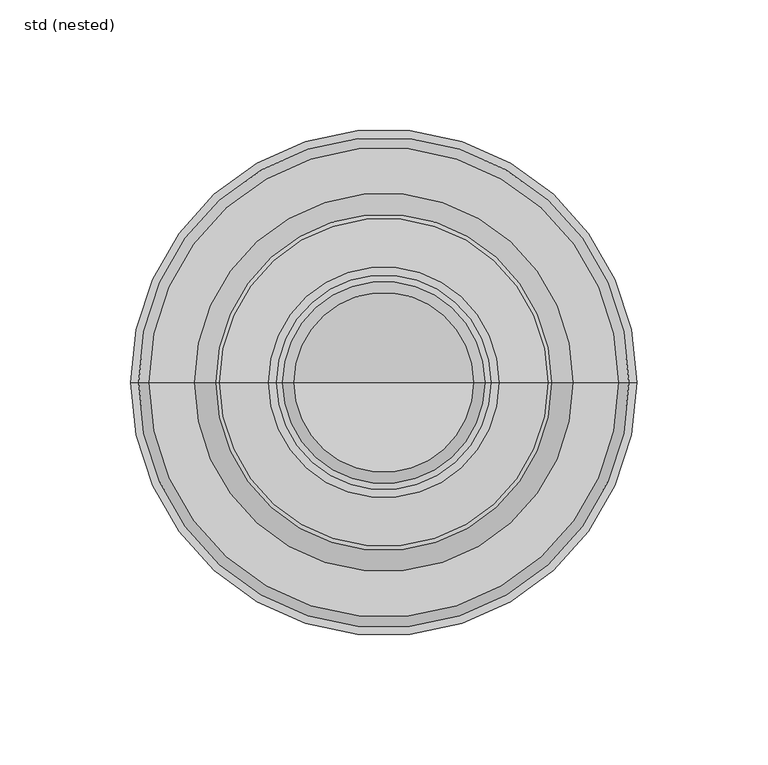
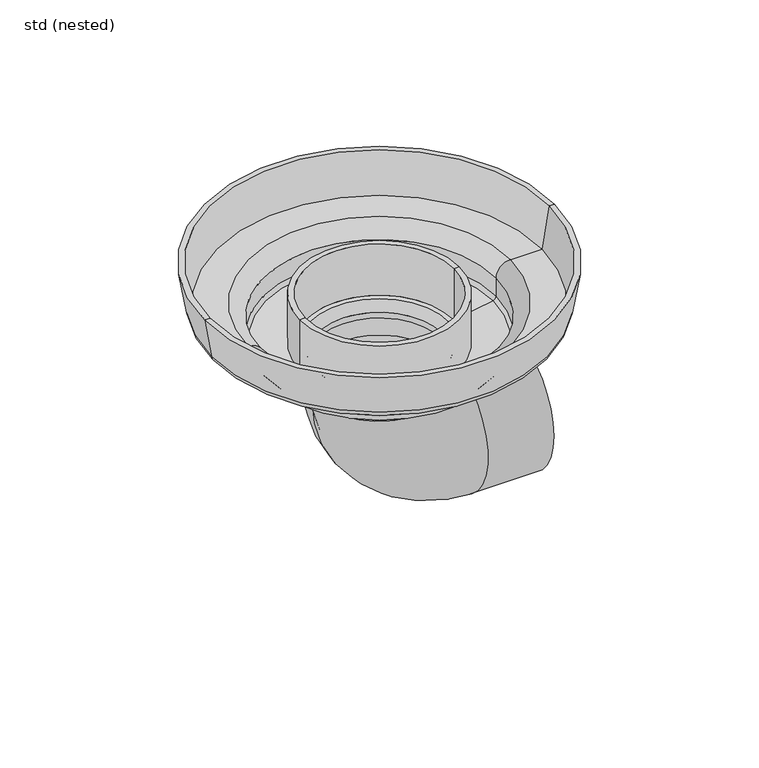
"""IFC4 building model written with IfcOpenShell, lengths in millimetres: sanitary terminal geometry, Akasison horizontal pipe connector_SH_Akatherm : std (nested)."""

from ifc_helpers import new_model, si_unit, point, frame, origin, place, context, project, spatial, polyline, circle_curve, ellipse_curve, trimmed, source, transform, mapped, element, save
from ifc_brep_helpers import plane_surface, cylinder_surface, revolved_surface, advanced_brep


def std_nested_5b9eb732(model_context):
    return source(origin(), model_context, "Body", "AdvancedBrep", [
        advanced_brep(
        [(-37.5, 0.0, -63.0), (-37.5, 0.0, -73.0), (37.5, 0.0, -73.0), (37.5, 0.0, -63.0), (38.5, 0.0, -149.0), (38.5, 0.0, -74.0), (75.0, 0.0, -149.0), (75.0, 0.0, -74.0), (75.0, 0.0, -146.0), (75.0, 0.0, -77.0), (-34.5, 0.0, -63.0), (-34.5, 0.0, -73.0), (34.5, 0.0, -73.0), (34.5, 0.0, -63.0), (38.5, 0.0, -146.0), (38.5, 0.0, -77.0), (88.2643646, 0.0, -33.0), (-88.2643646, 0.0, -33.0), (-93.1963342, 0.0, -28.8219949), (93.1963342, 0.0, -28.8219949), (72.5, 0.0, -33.0), (-72.5, 0.0, -33.0), (67.5, 0.0, -38.0), (-67.5, 0.0, -38.0), (67.5, 0.0, -48.7643646), (-67.5, 0.0, -48.7643646), (63.3219949, 0.0, -53.6963342), (-63.3219949, 0.0, -53.6963342), (39.171202, 0.0, -57.7214663), (-39.171202, 0.0, -57.7214663), (62.828798, 0.0, -50.7371524), (-62.828798, 0.0, -50.7371524), (-44.1848081, 0.0, -53.8444841), (44.1848081, 0.0, -53.8444841), (64.5, 0.0, -48.7643646), (-64.5, 0.0, -48.7643646), (64.5, 0.0, -38.0), (-64.5, 0.0, -38.0), (72.5, 0.0, -30.0), (-72.5, 0.0, -30.0), (89.9586187, 0.0, -30.0), (-89.9586187, 0.0, -30.0), (93.9586187, 0.0, -6.0), (-93.9586187, 0.0, -6.0), (97.0, 0.0, -6.0), (-97.0, 0.0, -6.0), (41.1848081, 0.0, -24.3444841), (-41.1848081, 0.0, -24.3444841), (-41.1848081, 0.0, -54.3444841), (41.1848081, 0.0, -54.3444841), (44.1848081, 0.0, -24.3444841), (-44.1848081, 0.0, -24.3444841), (37.5, 0.0, -59.6942542), (-37.5, 0.0, -59.6942542), (34.5, 0.0, -59.6942542), (-34.5, 0.0, -59.6942542), (38.6780051, 0.0, -54.7622846), (-38.6780051, 0.0, -54.7622846)],
        [
            (0, 1),
            (1, 2, circle_curve(frame((0.0, 0.0, -73.0), z_axis=(0.0, 0.0, 1.0), x_axis=(1.0, 0.0, 0.0)), 37.5)),
            (2, 3),
            (3, 0, circle_curve(frame((0.0, 0.0, -63.0), z_axis=(0.0, 0.0, -1.0), x_axis=(1.0, 0.0, 0.0)), 37.5)),
            (0, 3, circle_curve(frame((0.0, 0.0, -63.0), z_axis=(0.0, 0.0, -1.0), x_axis=(1.0, 0.0, 0.0)), 37.5)),
            (2, 1, circle_curve(frame((0.0, 0.0, -73.0), z_axis=(0.0, 0.0, 1.0), x_axis=(1.0, 0.0, 0.0)), 37.5)),
            (1, 4, circle_curve(frame((38.5, 0.0, -73.0), z_axis=(0.0, -1.0, 0.0), x_axis=(-1.0, 0.0, 0.0)), 76.0)),
            (4, 5, circle_curve(frame((38.5, 0.0, -111.5), z_axis=(-1.0, 0.0, 0.0), x_axis=(0.0, 0.0, 1.0)), 37.5)),
            (5, 2, circle_curve(frame((38.5, 0.0, -73.0), z_axis=(0.0, 1.0, 0.0), x_axis=(-1.0, 0.0, 0.0)), 1.0)),
            (5, 4, circle_curve(frame((38.5, 0.0, -111.5), z_axis=(-1.0, 0.0, 0.0), x_axis=(0.0, 0.0, 1.0)), 37.5)),
            (6, 7, circle_curve(frame((75.0, 0.0, -111.5), z_axis=(1.0, 0.0, 0.0), x_axis=(0.0, 0.0, 1.0)), 37.5)),
            (7, 6, circle_curve(frame((75.0, 0.0, -111.5), z_axis=(1.0, 0.0, 0.0), x_axis=(0.0, 0.0, 1.0)), 37.5)),
            (8, 9, circle_curve(frame((75.0, 0.0, -111.5), z_axis=(-1.0, 0.0, 0.0), x_axis=(0.0, 0.0, 1.0)), 34.5)),
            (9, 8, circle_curve(frame((75.0, 0.0, -111.5), z_axis=(-1.0, 0.0, 0.0), x_axis=(0.0, 0.0, 1.0)), 34.5)),
            (4, 6),
            (7, 5),
            (10, 11),
            (11, 12, circle_curve(frame((0.0, 0.0, -73.0), z_axis=(0.0, 0.0, -1.0), x_axis=(1.0, 0.0, 0.0)), 34.5)),
            (12, 13),
            (13, 10, circle_curve(frame((0.0, 0.0, -63.0), z_axis=(0.0, 0.0, 1.0), x_axis=(1.0, 0.0, 0.0)), 34.5)),
            (10, 13, circle_curve(frame((0.0, 0.0, -63.0), z_axis=(0.0, 0.0, 1.0), x_axis=(1.0, 0.0, 0.0)), 34.5)),
            (12, 11, circle_curve(frame((0.0, 0.0, -73.0), z_axis=(0.0, 0.0, -1.0), x_axis=(1.0, 0.0, 0.0)), 34.5)),
            (11, 14, circle_curve(frame((38.5, 0.0, -73.0), z_axis=(0.0, -1.0, 0.0), x_axis=(-1.0, 0.0, 0.0)), 73.0)),
            (14, 15, circle_curve(frame((38.5, 0.0, -111.5), z_axis=(1.0, 0.0, 0.0), x_axis=(0.0, 0.0, 1.0)), 34.5)),
            (15, 12, circle_curve(frame((38.5, 0.0, -73.0), z_axis=(0.0, 1.0, 0.0), x_axis=(-1.0, 0.0, 0.0)), 4.0)),
            (15, 14, circle_curve(frame((38.5, 0.0, -111.5), z_axis=(1.0, 0.0, 0.0), x_axis=(0.0, 0.0, 1.0)), 34.5)),
            (9, 15),
            (14, 8),
            (16, 17, circle_curve(frame((0.0, 0.0, -33.0), z_axis=(0.0, 0.0, 1.0), x_axis=(-1.0, 0.0, 0.0)), 88.2643646)),
            (17, 18, circle_curve(frame((-88.2643646, 0.0, -28.0), z_axis=(0.0, 1.0, 0.0), x_axis=(1.0, 0.0, 0.0)), 5.0)),
            (18, 19, circle_curve(frame((0.0, 0.0, -28.8219949), z_axis=(0.0, 0.0, -1.0), x_axis=(-1.0, 0.0, 0.0)), 93.1963342)),
            (19, 16, circle_curve(frame((88.2643646, 0.0, -28.0), z_axis=(0.0, 1.0, 0.0), x_axis=(-1.0, 0.0, 0.0)), 5.0)),
            (17, 16, circle_curve(frame((0.0, 0.0, -33.0), z_axis=(0.0, 0.0, 1.0), x_axis=(-1.0, 0.0, 0.0)), 88.2643646)),
            (19, 18, circle_curve(frame((0.0, 0.0, -28.8219949), z_axis=(0.0, 0.0, -1.0), x_axis=(-1.0, 0.0, 0.0)), 93.1963342)),
            (16, 20),
            (20, 21, circle_curve(frame((0.0, 0.0, -33.0), z_axis=(0.0, 0.0, 1.0), x_axis=(-1.0, 0.0, 0.0)), 72.5)),
            (21, 17),
            (21, 20, circle_curve(frame((0.0, 0.0, -33.0), z_axis=(0.0, 0.0, 1.0), x_axis=(-1.0, 0.0, 0.0)), 72.5)),
            (20, 22, circle_curve(frame((72.5, 0.0, -38.0), z_axis=(0.0, -1.0, 0.0), x_axis=(-1.0, 0.0, 0.0)), 5.0)),
            (22, 23, circle_curve(frame((0.0, 0.0, -38.0), z_axis=(0.0, 0.0, 1.0), x_axis=(-1.0, 0.0, 0.0)), 67.5)),
            (23, 21, circle_curve(frame((-72.5, 0.0, -38.0), z_axis=(0.0, -1.0, 0.0), x_axis=(1.0, 0.0, 0.0)), 5.0)),
            (23, 22, circle_curve(frame((0.0, 0.0, -38.0), z_axis=(0.0, 0.0, 1.0), x_axis=(-1.0, 0.0, 0.0)), 67.5)),
            (22, 24),
            (24, 25, circle_curve(frame((0.0, 0.0, -48.7643646), z_axis=(0.0, 0.0, 1.0), x_axis=(-1.0, 0.0, 0.0)), 67.5)),
            (25, 23),
            (25, 24, circle_curve(frame((0.0, 0.0, -48.7643646), z_axis=(0.0, 0.0, 1.0), x_axis=(-1.0, 0.0, 0.0)), 67.5)),
            (24, 26, circle_curve(frame((62.5, 0.0, -48.7643646), z_axis=(0.0, 1.0, 0.0), x_axis=(-1.0, 0.0, 0.0)), 5.0)),
            (26, 27, circle_curve(frame((0.0, 0.0, -53.6963342), z_axis=(0.0, 0.0, 1.0), x_axis=(-1.0, 0.0, 0.0)), 63.3219949)),
            (27, 25, circle_curve(frame((-62.5, 0.0, -48.7643646), z_axis=(0.0, 1.0, 0.0), x_axis=(1.0, 0.0, 0.0)), 5.0)),
            (27, 26, circle_curve(frame((0.0, 0.0, -53.6963342), z_axis=(0.0, 0.0, 1.0), x_axis=(-1.0, 0.0, 0.0)), 63.3219949)),
            (26, 28),
            (28, 29, circle_curve(frame((0.0, 0.0, -57.7214663), z_axis=(0.0, 0.0, 1.0), x_axis=(-1.0, 0.0, 0.0)), 39.171202)),
            (29, 27),
            (29, 28, circle_curve(frame((0.0, 0.0, -57.7214663), z_axis=(0.0, 0.0, 1.0), x_axis=(-1.0, 0.0, 0.0)), 39.171202)),
            (30, 31, circle_curve(frame((0.0, 0.0, -50.7371524), z_axis=(0.0, 0.0, 1.0), x_axis=(-1.0, 0.0, 0.0)), 62.828798)),
            (31, 32),
            (32, 33, circle_curve(frame((0.0, 0.0, -53.8444841), z_axis=(0.0, 0.0, -1.0), x_axis=(-1.0, 0.0, 0.0)), 44.1848081)),
            (33, 30),
            (31, 30, circle_curve(frame((0.0, 0.0, -50.7371524), z_axis=(0.0, 0.0, 1.0), x_axis=(-1.0, 0.0, 0.0)), 62.828798)),
            (33, 32, circle_curve(frame((0.0, 0.0, -53.8444841), z_axis=(0.0, 0.0, -1.0), x_axis=(-1.0, 0.0, 0.0)), 44.1848081)),
            (30, 34, circle_curve(frame((62.5, 0.0, -48.7643646), z_axis=(0.0, -1.0, 0.0), x_axis=(-1.0, 0.0, 0.0)), 2.0)),
            (34, 35, circle_curve(frame((0.0, 0.0, -48.7643646), z_axis=(0.0, 0.0, 1.0), x_axis=(-1.0, 0.0, 0.0)), 64.5)),
            (35, 31, circle_curve(frame((-62.5, 0.0, -48.7643646), z_axis=(0.0, -1.0, 0.0), x_axis=(1.0, 0.0, 0.0)), 2.0)),
            (35, 34, circle_curve(frame((0.0, 0.0, -48.7643646), z_axis=(0.0, 0.0, 1.0), x_axis=(-1.0, 0.0, 0.0)), 64.5)),
            (34, 36),
            (36, 37, circle_curve(frame((0.0, 0.0, -38.0), z_axis=(0.0, 0.0, 1.0), x_axis=(-1.0, 0.0, 0.0)), 64.5)),
            (37, 35),
            (37, 36, circle_curve(frame((0.0, 0.0, -38.0), z_axis=(0.0, 0.0, 1.0), x_axis=(-1.0, 0.0, 0.0)), 64.5)),
            (36, 38, circle_curve(frame((72.5, 0.0, -38.0), z_axis=(0.0, 1.0, 0.0), x_axis=(-1.0, 0.0, 0.0)), 8.0)),
            (38, 39, circle_curve(frame((0.0, 0.0, -30.0), z_axis=(0.0, 0.0, 1.0), x_axis=(-1.0, 0.0, 0.0)), 72.5)),
            (39, 37, circle_curve(frame((-72.5, 0.0, -38.0), z_axis=(0.0, 1.0, 0.0), x_axis=(1.0, 0.0, 0.0)), 8.0)),
            (39, 38, circle_curve(frame((0.0, 0.0, -30.0), z_axis=(0.0, 0.0, 1.0), x_axis=(-1.0, 0.0, 0.0)), 72.5)),
            (38, 40),
            (40, 41, circle_curve(frame((0.0, 0.0, -30.0), z_axis=(0.0, 0.0, 1.0), x_axis=(-1.0, 0.0, 0.0)), 89.9586187)),
            (41, 39),
            (41, 40, circle_curve(frame((0.0, 0.0, -30.0), z_axis=(0.0, 0.0, 1.0), x_axis=(-1.0, 0.0, 0.0)), 89.9586187)),
            (40, 42),
            (42, 43, circle_curve(frame((0.0, 0.0, -6.0), z_axis=(0.0, 0.0, 1.0), x_axis=(-1.0, 0.0, 0.0)), 93.9586187)),
            (43, 41),
            (43, 42, circle_curve(frame((0.0, 0.0, -6.0), z_axis=(0.0, 0.0, 1.0), x_axis=(-1.0, 0.0, 0.0)), 93.9586187)),
            (42, 44),
            (44, 45, circle_curve(frame((0.0, 0.0, -6.0), z_axis=(0.0, 0.0, 1.0), x_axis=(-1.0, 0.0, 0.0)), 97.0)),
            (45, 43),
            (45, 44, circle_curve(frame((0.0, 0.0, -6.0), z_axis=(0.0, 0.0, 1.0), x_axis=(-1.0, 0.0, 0.0)), 97.0)),
            (18, 45),
            (44, 19),
            (46, 47, circle_curve(frame((0.0, 0.0, -24.3444841), z_axis=(0.0, 0.0, 1.0), x_axis=(-1.0, 0.0, 0.0)), 41.1848081)),
            (47, 48),
            (48, 49, circle_curve(frame((0.0, 0.0, -54.3444841), z_axis=(0.0, 0.0, -1.0), x_axis=(-1.0, 0.0, 0.0)), 41.1848081)),
            (49, 46),
            (47, 46, circle_curve(frame((0.0, 0.0, -24.3444841), z_axis=(0.0, 0.0, 1.0), x_axis=(-1.0, 0.0, 0.0)), 41.1848081)),
            (49, 48, circle_curve(frame((0.0, 0.0, -54.3444841), z_axis=(0.0, 0.0, -1.0), x_axis=(-1.0, 0.0, 0.0)), 41.1848081)),
            (46, 50),
            (50, 51, circle_curve(frame((0.0, 0.0, -24.3444841), z_axis=(0.0, 0.0, 1.0), x_axis=(-1.0, 0.0, 0.0)), 44.1848081)),
            (51, 47),
            (51, 50, circle_curve(frame((0.0, 0.0, -24.3444841), z_axis=(0.0, 0.0, 1.0), x_axis=(-1.0, 0.0, 0.0)), 44.1848081)),
            (32, 51),
            (50, 33),
            (28, 52, circle_curve(frame((39.5, 0.0, -59.6942542), z_axis=(0.0, -1.0, 0.0), x_axis=(-1.0, 0.0, 0.0)), 2.0)),
            (52, 53, circle_curve(frame((0.0, 0.0, -59.6942542), z_axis=(0.0, 0.0, 1.0), x_axis=(-1.0, 0.0, 0.0)), 37.5)),
            (53, 29, circle_curve(frame((-39.5, 0.0, -59.6942542), z_axis=(0.0, -1.0, 0.0), x_axis=(1.0, 0.0, 0.0)), 2.0)),
            (53, 52, circle_curve(frame((0.0, 0.0, -59.6942542), z_axis=(0.0, 0.0, 1.0), x_axis=(-1.0, 0.0, 0.0)), 37.5)),
            (52, 3),
            (0, 53),
            (54, 55, circle_curve(frame((0.0, 0.0, -59.6942542), z_axis=(0.0, 0.0, 1.0), x_axis=(-1.0, 0.0, 0.0)), 34.5)),
            (55, 10),
            (13, 54),
            (55, 54, circle_curve(frame((0.0, 0.0, -59.6942542), z_axis=(0.0, 0.0, 1.0), x_axis=(-1.0, 0.0, 0.0)), 34.5)),
            (54, 56, circle_curve(frame((39.5, 0.0, -59.6942542), z_axis=(0.0, 1.0, 0.0), x_axis=(-1.0, 0.0, 0.0)), 5.0)),
            (56, 57, circle_curve(frame((0.0, 0.0, -54.7622846), z_axis=(0.0, 0.0, 1.0), x_axis=(-1.0, 0.0, 0.0)), 38.6780051)),
            (57, 55, circle_curve(frame((-39.5, 0.0, -59.6942542), z_axis=(0.0, 1.0, 0.0), x_axis=(1.0, 0.0, 0.0)), 5.0)),
            (57, 56, circle_curve(frame((0.0, 0.0, -54.7622846), z_axis=(0.0, 0.0, 1.0), x_axis=(-1.0, 0.0, 0.0)), 38.6780051)),
            (48, 57),
            (56, 49),
        ],
        [
            cylinder_surface(frame((0.0, 0.0, -63.0), z_axis=(0.0, 0.0, 1.0), x_axis=(1.0, 0.0, 0.0)), 37.5),
            revolved_surface(trimmed(ellipse_curve(frame((0.0, 0.0, -73.0), z_axis=(0.0, 0.0, 1.0), x_axis=(1.0, 0.0, 0.0)), 37.5, 37.5), [point((-37.5, 0.0, -73.0))], [point((37.5, 0.0, -73.0))], True, "CARTESIAN"), (38.5, 0.0, -73.0), (0.0, -1.0, 0.0)),
            revolved_surface(trimmed(ellipse_curve(frame((0.0, 0.0, -73.0), z_axis=(0.0, 0.0, 1.0), x_axis=(1.0, 0.0, 0.0)), 37.5, 37.5), [point((37.5, 0.0, -73.0))], [point((-37.5, 0.0, -73.0))], True, "CARTESIAN"), (38.5, 0.0, -73.0), (0.0, -1.0, 0.0)),
            plane_surface(frame((75.0, 0.0, -111.5), z_axis=(1.0, 0.0, 0.0), x_axis=(0.0, -1.0, 0.0))),
            cylinder_surface(frame((38.5, 0.0, -111.5), z_axis=(-1.0, 0.0, 0.0), x_axis=(0.0, 0.0, 1.0)), 37.5),
            revolved_surface(polyline([(34.5, 0.0, -73.0), (34.5, 0.0, -63.0)]), (0.0, 0.0, -63.0), (0.0, 0.0, -1.0)),
            revolved_surface(trimmed(ellipse_curve(frame((0.0, 0.0, -73.0), z_axis=(0.0, 0.0, -1.0), x_axis=(1.0, 0.0, 0.0)), 34.5, 34.5), [point((-34.5, 0.0, -73.0))], [point((34.5, 0.0, -73.0))], True, "CARTESIAN"), (38.5, 0.0, -73.0), (0.0, -1.0, 0.0)),
            revolved_surface(trimmed(ellipse_curve(frame((0.0, 0.0, -73.0), z_axis=(0.0, 0.0, -1.0), x_axis=(1.0, 0.0, 0.0)), 34.5, 34.5), [point((34.5, 0.0, -73.0))], [point((-34.5, 0.0, -73.0))], True, "CARTESIAN"), (38.5, 0.0, -73.0), (0.0, -1.0, 0.0)),
            revolved_surface(polyline([(75.0, 0.0, -77.0), (38.5, 0.0, -77.0)]), (38.5, 0.0, -111.5), (1.0, 0.0, 0.0)),
            revolved_surface(trimmed(ellipse_curve(frame((-88.2643646, 0.0, -28.0), z_axis=(0.0, -1.0, 0.0), x_axis=(1.0, 0.0, 0.0)), 5.0, 5.0), [point((-93.1963342, 0.0, -28.8219949))], [point((-88.2643646, 0.0, -33.0))], True, "CARTESIAN"), (0.0, 0.0, 117.0), (0.0, 0.0, -1.0)),
            plane_surface(frame((0.0, 0.0, -33.0), z_axis=(0.0, 0.0, -1.0), x_axis=(-1.0, 0.0, 0.0))),
            revolved_surface(trimmed(ellipse_curve(frame((-72.5, 0.0, -38.0), z_axis=(0.0, 1.0, 0.0), x_axis=(1.0, 0.0, 0.0)), 5.0, 5.0), [point((-72.5, 0.0, -33.0))], [point((-67.5, 0.0, -38.0))], True, "CARTESIAN"), (0.0, 0.0, 117.0), (0.0, 0.0, -1.0)),
            cylinder_surface(frame((0.0, 0.0, 117.0), z_axis=(0.0, 0.0, -1.0), x_axis=(-1.0, 0.0, 0.0)), 67.5),
            revolved_surface(trimmed(ellipse_curve(frame((-62.5, 0.0, -48.7643646), z_axis=(0.0, -1.0, 0.0), x_axis=(1.0, 0.0, 0.0)), 5.0, 5.0), [point((-67.5, 0.0, -48.7643646))], [point((-63.3219949, 0.0, -53.6963342))], True, "CARTESIAN"), (0.0, 0.0, 117.0), (0.0, 0.0, -1.0)),
            revolved_surface(polyline([(-63.3219949, 0.0, -53.6963342), (-39.171202, 0.0, -57.7214663)]), (0.0, 0.0, 117.0), (0.0, 0.0, -1.0)),
            revolved_surface(polyline([(-44.1848081, 0.0, -53.8444841), (-62.828798, 0.0, -50.7371524)]), (0.0, 0.0, 117.0), (0.0, 0.0, -1.0)),
            revolved_surface(trimmed(ellipse_curve(frame((-62.5, 0.0, -48.7643646), z_axis=(0.0, 1.0, 0.0), x_axis=(1.0, 0.0, 0.0)), 2.0, 2.0), [point((-62.828798, 0.0, -50.7371524))], [point((-64.5, 0.0, -48.7643646))], True, "CARTESIAN"), (0.0, 0.0, 117.0), (0.0, 0.0, -1.0)),
            revolved_surface(polyline([(-64.5, 0.0, -48.76436459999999), (-64.5, 0.0, -38.0)]), (0.0, 0.0, 117.0), (0.0, 0.0, -1.0)),
            revolved_surface(trimmed(ellipse_curve(frame((-72.5, 0.0, -38.0), z_axis=(0.0, -1.0, 0.0), x_axis=(1.0, 0.0, 0.0)), 8.0, 8.0), [point((-64.5, 0.0, -38.0))], [point((-72.5, 0.0, -30.0))], True, "CARTESIAN"), (0.0, 0.0, 117.0), (0.0, 0.0, -1.0)),
            plane_surface(frame((0.0, 0.0, -30.0), z_axis=(0.0, 0.0, 1.0), x_axis=(-1.0, 0.0, 0.0))),
            revolved_surface(polyline([(-89.9586187, 0.0, -30.0), (-93.9586187, 0.0, -6.0)]), (0.0, 0.0, 117.0), (0.0, 0.0, -1.0)),
            plane_surface(frame((0.0, 0.0, -6.0), z_axis=(0.0, 0.0, 1.0), x_axis=(-1.0, 0.0, 0.0))),
            revolved_surface(polyline([(-97.0, 0.0, -6.0), (-93.1963342, 0.0, -28.8219949)]), (0.0, 0.0, 117.0), (0.0, 0.0, -1.0)),
            revolved_surface(polyline([(-41.1848081, 0.0, -54.34448409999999), (-41.1848081, 0.0, -24.34448409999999)]), (0.0, 0.0, 117.0), (0.0, 0.0, -1.0)),
            plane_surface(frame((0.0, 0.0, -24.3444841), z_axis=(0.0, 0.0, 1.0), x_axis=(-1.0, 0.0, 0.0))),
            cylinder_surface(frame((0.0, 0.0, 117.0), z_axis=(0.0, 0.0, -1.0), x_axis=(-1.0, 0.0, 0.0)), 44.1848081),
            revolved_surface(trimmed(ellipse_curve(frame((-39.5, 0.0, -59.6942542), z_axis=(0.0, 1.0, 0.0), x_axis=(1.0, 0.0, 0.0)), 2.0, 2.0), [point((-39.171202, 0.0, -57.7214663))], [point((-37.5, 0.0, -59.6942542))], True, "CARTESIAN"), (0.0, 0.0, 117.0), (0.0, 0.0, -1.0)),
            cylinder_surface(frame((0.0, 0.0, 117.0), z_axis=(0.0, 0.0, -1.0), x_axis=(-1.0, 0.0, 0.0)), 37.5),
            revolved_surface(polyline([(-34.5, 0.0, -63.0), (-34.5, 0.0, -59.69425419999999)]), (0.0, 0.0, 117.0), (0.0, 0.0, -1.0)),
            revolved_surface(trimmed(ellipse_curve(frame((-39.5, 0.0, -59.6942542), z_axis=(0.0, -1.0, 0.0), x_axis=(1.0, 0.0, 0.0)), 5.0, 5.0), [point((-34.5, 0.0, -59.6942542))], [point((-38.6780051, 0.0, -54.7622846))], True, "CARTESIAN"), (0.0, 0.0, 117.0), (0.0, 0.0, -1.0)),
            revolved_surface(polyline([(-38.6780051, 0.0, -54.7622846), (-41.1848081, 0.0, -54.3444841)]), (0.0, 0.0, 117.0), (0.0, 0.0, -1.0)),
        ],
        [
            (0, [[1, 2, 3, 4]]),
            (0, [[-1, 5, -3, 6]]),
            (1, [[-2, 7, 8, 9]]),
            (2, [[-6, -9, 10, -7]]),
            (3, [[11, 12], [13, 14]]),
            (4, [[-8, 15, -12, 16]]),
            (4, [[-10, -16, -11, -15]]),
            (5, [[17, 18, 19, 20]]),
            (5, [[-17, 21, -19, 22]]),
            (6, [[-18, 23, 24, 25]]),
            (7, [[-22, -25, 26, -23]]),
            (8, [[-14, 27, -24, 28]]),
            (8, [[-13, -28, -26, -27]]),
            (9, [[29, 30, 31, 32]]),
            (9, [[-30, 33, -32, 34]]),
            (10, [[-29, 35, 36, 37]]),
            (10, [[-33, -37, 38, -35]]),
            (11, [[-36, 39, 40, 41]]),
            (11, [[-38, -41, 42, -39]]),
            (12, [[-40, 43, 44, 45]]),
            (12, [[-42, -45, 46, -43]]),
            (13, [[-44, 47, 48, 49]]),
            (13, [[-46, -49, 50, -47]]),
            (14, [[-48, 51, 52, 53]]),
            (14, [[-50, -53, 54, -51]]),
            (15, [[55, 56, 57, 58]]),
            (15, [[-56, 59, -58, 60]]),
            (16, [[-55, 61, 62, 63]]),
            (16, [[-59, -63, 64, -61]]),
            (17, [[-62, 65, 66, 67]]),
            (17, [[-64, -67, 68, -65]]),
            (18, [[-66, 69, 70, 71]]),
            (18, [[-68, -71, 72, -69]]),
            (19, [[-70, 73, 74, 75]]),
            (19, [[-72, -75, 76, -73]]),
            (20, [[-74, 77, 78, 79]]),
            (20, [[-76, -79, 80, -77]]),
            (21, [[-78, 81, 82, 83]]),
            (21, [[-80, -83, 84, -81]]),
            (22, [[-31, 85, -82, 86]]),
            (22, [[-34, -86, -84, -85]]),
            (23, [[87, 88, 89, 90]]),
            (23, [[-88, 91, -90, 92]]),
            (24, [[-87, 93, 94, 95]]),
            (24, [[-91, -95, 96, -93]]),
            (25, [[-57, 97, -94, 98]]),
            (25, [[-60, -98, -96, -97]]),
            (26, [[-52, 99, 100, 101]]),
            (26, [[-54, -101, 102, -99]]),
            (27, [[-100, 103, -5, 104]]),
            (27, [[-102, -104, -4, -103]]),
            (28, [[105, 106, -20, 107]]),
            (28, [[-106, 108, -107, -21]]),
            (29, [[-105, 109, 110, 111]]),
            (29, [[-108, -111, 112, -109]]),
            (30, [[-89, 113, -110, 114]]),
            (30, [[-92, -114, -112, -113]]),
        ],
    ),
    ])


if __name__ == "__main__":
    model = new_model("IFC4")
    model_context = context("Model", 3, world=origin())
    ifc_project = project(units=[si_unit("LENGTHUNIT", "METRE", prefix="MILLI")], contexts=[model_context])
    site = spatial("IfcSite", under=ifc_project)
    building = spatial("IfcBuilding", under=site)
    placement = place(None, origin())
    std_nested_shape = std_nested_5b9eb732(model_context)
    element("IfcSanitaryTerminal", 1, ObjectType="Akasison horizontal pipe connector_SH_Akatherm : std (nested)", at=placement, inside=building, context=model_context, shape_type="MappedRepresentation", body=[
        mapped(std_nested_shape, transform((0.0, 0.0, 0.0), x_axis=(1.0, 0.0, 0.0), y_axis=(0.0, 1.0, 0.0), z_axis=(0.0, 0.0, 1.0))),
    ])
    save(model, "model.ifc")
